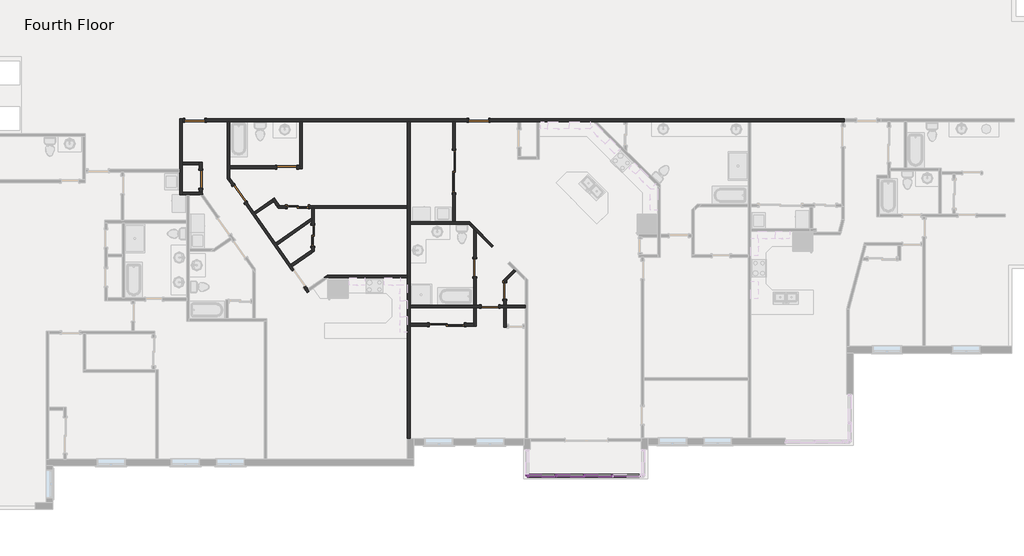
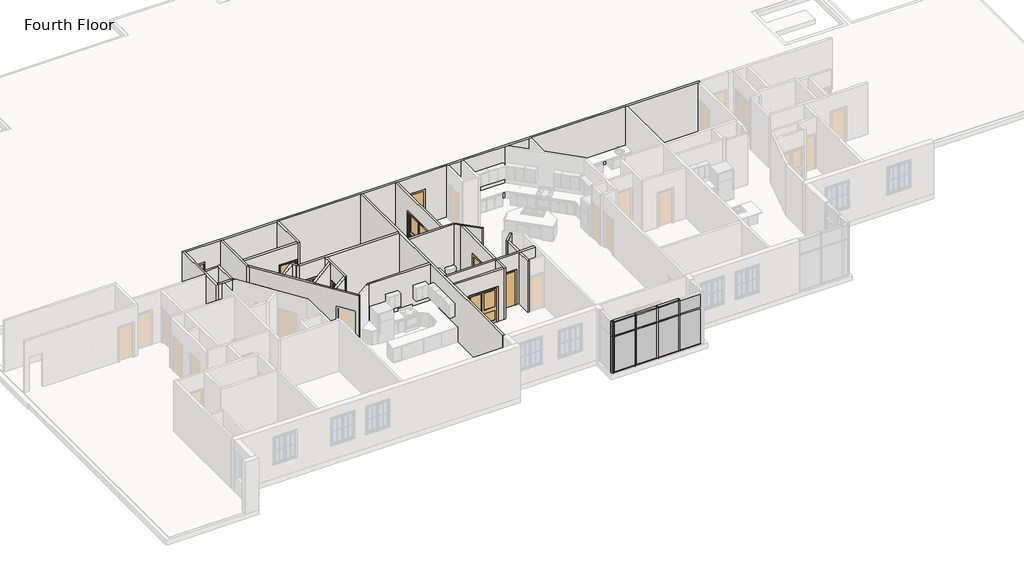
# One storey, part 3 of 17: 27 walls, 20 members, 12 doors, 8 plates.
"""IFC4 building model written with IfcOpenShell, lengths in millimetres."""

from ifc_helpers import new_model, si_unit, frame, origin, place, context, project, spatial, polyline, outline, extrude, faceted_brep, transform, mapped, element, save
from components import door_f2586ccf, door_d8f5dbb5, door_f2b275c1, door_825b8444, door_c29894e6, door_88c23cd7, door_2e7ec8be, door_caaf2a11, rectangular_mullion_rectangular_mullion_1_fa3625a1, rectangular_mullion_rectangular_mullion_1_7cbf0b94, rectangular_mullion_rectangular_mullion_1_6186cc23, rectangular_mullion_rectangular_mullion_1_049a2e78, rectangular_mullion_rectangular_mullion_1_a50b3cda, rectangular_mullion_rectangular_mullion_1_5cd4c5ac, system_panel_glazed_0ed27d1d, system_panel_glazed_134bacdb

model = new_model("IFC4")

# Units and contexts
model_context = context("Model", 3, world=origin())
ifc_project = project(units=[si_unit("LENGTHUNIT", "METRE", prefix="MILLI")], contexts=[model_context])

# Site, building, storey
site = spatial("IfcSite", under=ifc_project)
building = spatial("IfcBuilding", under=site)
storey = spatial("IfcBuildingStorey", under=building, Name="Fourth Floor", Elevation=9144.0)

# Doors
placement = place(None, origin())
door_shape = door_f2586ccf(model_context)
element("IfcDoor", 1, ObjectType="Single-Flush : 28\" x 80\"", at=placement, inside=storey, context=model_context, shape_type="MappedRepresentation", body=[
    mapped(door_shape, transform((31589.3040357, -12033.9392565, 9144.0), x_axis=(0.0, 1.0, 0.0), y_axis=(-1.0, 0.0, 0.0), z_axis=(0.0, 0.0, 1.0))),
])
door_2_shape = door_d8f5dbb5(model_context)
element("IfcDoor", 2, ObjectType="Single-Flush : 30\" x 80\"", at=placement, inside=storey, context=model_context, shape_type="MappedRepresentation", body=[
    mapped(door_2_shape, transform((18439.6602461, -7206.7219726, 9144.0), x_axis=(0.0, -1.0, 0.0), y_axis=(1.0, 0.0, 0.0), z_axis=(0.0, 0.0, 1.0))),
])
door_3_shape = door_f2b275c1(model_context)
element("IfcDoor", 3, ObjectType="Single-Flush : 30\" x 80\"", at=placement, inside=storey, context=model_context, shape_type="MappedRepresentation", body=[
    mapped(door_3_shape, transform((30941.6040357, -12707.1736347, 9144.0), x_axis=(1.0, 0.0, 0.0), y_axis=(0.0, 1.0, 0.0), z_axis=(0.0, 0.0, 1.0))),
])
element("IfcDoor", 4, ObjectType="Single-Flush : 30\" x 80\"", at=placement, inside=storey, context=model_context, shape_type="MappedRepresentation", body=[
    mapped(door_3_shape, transform((30293.9040357, -11030.7736347, 9144.0), x_axis=(0.0, -1.0, 0.0), y_axis=(1.0, 0.0, 0.0), z_axis=(0.0, 0.0, 1.0))),
])
door_4_shape = door_825b8444(model_context)
element("IfcDoor", 5, ObjectType="Single-Flush : 34\" x 80\"", at=placement, inside=storey, context=model_context, shape_type="MappedRepresentation", body=[
    mapped(door_4_shape, transform((20114.7748093, -7834.753233, 9144.0), x_axis=(-0.5735764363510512, 0.8191520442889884, 0.0), y_axis=(-0.8191520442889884, -0.5735764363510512, 0.0), z_axis=(0.0, 0.0, 1.0))),
])
door_5_shape = door_c29894e6(model_context)
element("IfcDoor", 6, ObjectType="Single-Flush : 34\" x 80\"", at=placement, inside=storey, context=model_context, shape_type="MappedRepresentation", body=[
    mapped(door_5_shape, transform((18188.1416991, -4651.3917963, 9144.0), x_axis=(-1.0, 0.0, 0.0), y_axis=(0.0, -1.0, 0.0), z_axis=(0.0, 0.0, 1.0))),
])
element("IfcDoor", 7, ObjectType="Single-Flush : 34\" x 80\"", at=placement, inside=storey, context=model_context, shape_type="MappedRepresentation", body=[
    mapped(door_5_shape, transform((22162.0691338, -6683.3917963, 9144.0), x_axis=(1.0, 0.0, 0.0), y_axis=(0.0, 1.0, 0.0), z_axis=(0.0, 0.0, 1.0))),
])
element("IfcDoor", 8, ObjectType="Single-Flush : 34\" x 80\"", at=placement, inside=storey, context=model_context, shape_type="MappedRepresentation", body=[
    mapped(door_5_shape, transform((30456.3297218, -4651.3917963, 9144.0), x_axis=(-1.0, 0.0, 0.0), y_axis=(0.0, -1.0, 0.0), z_axis=(0.0, 0.0, 1.0))),
])
door_6_shape = door_88c23cd7(model_context)
element("IfcDoor", 9, ObjectType="Sliding-Closet : 36\" x 80\"", at=placement, inside=storey, context=model_context, shape_type="MappedRepresentation", body=[
    mapped(door_6_shape, transform((23160.2196169, -9642.0427038, 9144.0), x_axis=(0.0, -1.0, 0.0), y_axis=(1.0, 0.0, 0.0), z_axis=(0.0, 0.0, 1.0))),
])
element("IfcDoor", 10, ObjectType="Sliding-Closet : 36\" x 80\"", at=placement, inside=storey, context=model_context, shape_type="MappedRepresentation", body=[
    mapped(door_6_shape, transform((22626.8196169, -8270.4427038, 9144.0), x_axis=(-1.0, 0.0, 0.0), y_axis=(0.0, -1.0, 0.0), z_axis=(0.0, 0.0, 1.0))),
])
door_7_shape = door_2e7ec8be(model_context)
element("IfcDoor", 11, ObjectType="Sliding-Closet : 60\" x 80\"", at=placement, inside=storey, context=model_context, shape_type="MappedRepresentation", body=[
    mapped(door_7_shape, transform((29074.7040357, -13371.9064679, 9144.0), x_axis=(-1.0, 0.0, 0.0), y_axis=(0.0, -1.0, 0.0), z_axis=(0.0, 0.0, 1.0))),
])
door_8_shape = door_caaf2a11(model_context)
element("IfcDoor", 12, ObjectType="Sliding-Closet : 72\" x 80\"", at=placement, inside=storey, context=model_context, shape_type="MappedRepresentation", body=[
    mapped(door_8_shape, transform((29262.5297218, -6874.7901817, 9144.0), x_axis=(0.0, -1.0, 0.0), y_axis=(1.0, 0.0, 0.0), z_axis=(0.0, 0.0, 1.0))),
])

# Members
rectangular_mullion_rectangular_mullion_1_shape = rectangular_mullion_rectangular_mullion_1_fa3625a1(model_context)
element("IfcMember", 13, ObjectType="Rectangular Mullion : Rectangular Mullion 1", at=placement, inside=storey, context=model_context, shape_type="MappedRepresentation", body=[
    mapped(rectangular_mullion_rectangular_mullion_1_shape, transform((33772.8620392, -20021.7015972, 12192.0), x_axis=(0.0, 0.0, 1.0), y_axis=(0.0, -1.0, 0.0), z_axis=(1.0, 0.0, 0.0))),
])
element("IfcMember", 14, ObjectType="Rectangular Mullion : Rectangular Mullion 1", at=placement, inside=storey, context=model_context, shape_type="MappedRepresentation", body=[
    mapped(rectangular_mullion_rectangular_mullion_1_shape, transform((34992.0620392, -20021.7015972, 12192.0), x_axis=(0.0, 0.0, 1.0), y_axis=(0.0, -1.0, 0.0), z_axis=(1.0, 0.0, 0.0))),
])
element("IfcMember", 15, ObjectType="Rectangular Mullion : Rectangular Mullion 1", at=placement, inside=storey, context=model_context, shape_type="MappedRepresentation", body=[
    mapped(rectangular_mullion_rectangular_mullion_1_shape, transform((36211.2620392, -20021.7015972, 12192.0), x_axis=(0.0, 0.0, 1.0), y_axis=(0.0, -1.0, 0.0), z_axis=(1.0, 0.0, 0.0))),
])
element("IfcMember", 16, ObjectType="Rectangular Mullion : Rectangular Mullion 1", at=placement, inside=storey, context=model_context, shape_type="MappedRepresentation", body=[
    mapped(rectangular_mullion_rectangular_mullion_1_shape, transform((32617.1620389, -20021.7015972, 9144.0), x_axis=(0.0, 0.0, -1.0), y_axis=(0.0, -1.0, 0.0), z_axis=(-1.0, 0.0, 0.0))),
])
element("IfcMember", 17, ObjectType="Rectangular Mullion : Rectangular Mullion 1", at=placement, inside=storey, context=model_context, shape_type="MappedRepresentation", body=[
    mapped(rectangular_mullion_rectangular_mullion_1_shape, transform((33836.3620392, -20021.7015972, 9144.0), x_axis=(0.0, 0.0, -1.0), y_axis=(0.0, -1.0, 0.0), z_axis=(-1.0, 0.0, 0.0))),
])
element("IfcMember", 18, ObjectType="Rectangular Mullion : Rectangular Mullion 1", at=placement, inside=storey, context=model_context, shape_type="MappedRepresentation", body=[
    mapped(rectangular_mullion_rectangular_mullion_1_shape, transform((35055.5620392, -20021.7015972, 9144.0), x_axis=(0.0, 0.0, -1.0), y_axis=(0.0, -1.0, 0.0), z_axis=(-1.0, 0.0, 0.0))),
])
element("IfcMember", 19, ObjectType="Rectangular Mullion : Rectangular Mullion 1", at=placement, inside=storey, context=model_context, shape_type="MappedRepresentation", body=[
    mapped(rectangular_mullion_rectangular_mullion_1_shape, transform((36274.7620392, -20021.7015972, 9144.0), x_axis=(0.0, 0.0, -1.0), y_axis=(0.0, -1.0, 0.0), z_axis=(-1.0, 0.0, 0.0))),
])
rectangular_mullion_rectangular_mullion_1_2_shape = rectangular_mullion_rectangular_mullion_1_7cbf0b94(model_context)
element("IfcMember", 20, ObjectType="Rectangular Mullion : Rectangular Mullion 1", at=placement, inside=storey, context=model_context, shape_type="MappedRepresentation", body=[
    mapped(rectangular_mullion_rectangular_mullion_1_2_shape, transform((33772.8620392, -20021.7015972, 11309.35), x_axis=(0.0, 0.0, 1.0), y_axis=(0.0, -1.0, 0.0), z_axis=(1.0, 0.0, 0.0))),
])
element("IfcMember", 21, ObjectType="Rectangular Mullion : Rectangular Mullion 1", at=placement, inside=storey, context=model_context, shape_type="MappedRepresentation", body=[
    mapped(rectangular_mullion_rectangular_mullion_1_2_shape, transform((34992.0620392, -20021.7015972, 11309.35), x_axis=(0.0, 0.0, 1.0), y_axis=(0.0, -1.0, 0.0), z_axis=(1.0, 0.0, 0.0))),
])
element("IfcMember", 22, ObjectType="Rectangular Mullion : Rectangular Mullion 1", at=placement, inside=storey, context=model_context, shape_type="MappedRepresentation", body=[
    mapped(rectangular_mullion_rectangular_mullion_1_2_shape, transform((36211.2620392, -20021.7015972, 11309.35), x_axis=(0.0, 0.0, 1.0), y_axis=(0.0, -1.0, 0.0), z_axis=(1.0, 0.0, 0.0))),
])
rectangular_mullion_rectangular_mullion_1_3_shape = rectangular_mullion_rectangular_mullion_1_6186cc23(model_context)
element("IfcMember", 23, ObjectType="Rectangular Mullion : Rectangular Mullion 1", at=placement, inside=storey, context=model_context, shape_type="MappedRepresentation", body=[
    mapped(rectangular_mullion_rectangular_mullion_1_3_shape, transform((33804.6120392, -20021.7015972, 9144.0), x_axis=(1.0, 0.0, 0.0), y_axis=(0.0, -1.0, 0.0), z_axis=(0.0, 0.0, -1.0))),
])
element("IfcMember", 24, ObjectType="Rectangular Mullion : Rectangular Mullion 1", at=placement, inside=storey, context=model_context, shape_type="MappedRepresentation", body=[
    mapped(rectangular_mullion_rectangular_mullion_1_3_shape, transform((35023.8120392, -20021.7015972, 9144.0), x_axis=(1.0, 0.0, 0.0), y_axis=(0.0, -1.0, 0.0), z_axis=(0.0, 0.0, -1.0))),
])
element("IfcMember", 25, ObjectType="Rectangular Mullion : Rectangular Mullion 1", at=placement, inside=storey, context=model_context, shape_type="MappedRepresentation", body=[
    mapped(rectangular_mullion_rectangular_mullion_1_3_shape, transform((36243.0120392, -20021.7015972, 9144.0), x_axis=(1.0, 0.0, 0.0), y_axis=(0.0, -1.0, 0.0), z_axis=(0.0, 0.0, -1.0))),
])
rectangular_mullion_rectangular_mullion_1_4_shape = rectangular_mullion_rectangular_mullion_1_049a2e78(model_context)
element("IfcMember", 26, ObjectType="Rectangular Mullion : Rectangular Mullion 1", at=placement, inside=storey, context=model_context, shape_type="MappedRepresentation", body=[
    mapped(rectangular_mullion_rectangular_mullion_1_4_shape, transform((33804.6120392, -20021.7015972, 11309.35), x_axis=(1.0, 0.0, 0.0), y_axis=(0.0, -1.0, 0.0), z_axis=(0.0, 0.0, -1.0))),
])
element("IfcMember", 27, ObjectType="Rectangular Mullion : Rectangular Mullion 1", at=placement, inside=storey, context=model_context, shape_type="MappedRepresentation", body=[
    mapped(rectangular_mullion_rectangular_mullion_1_4_shape, transform((35023.8120392, -20021.7015972, 11309.35), x_axis=(1.0, 0.0, 0.0), y_axis=(0.0, -1.0, 0.0), z_axis=(0.0, 0.0, -1.0))),
])
element("IfcMember", 28, ObjectType="Rectangular Mullion : Rectangular Mullion 1", at=placement, inside=storey, context=model_context, shape_type="MappedRepresentation", body=[
    mapped(rectangular_mullion_rectangular_mullion_1_4_shape, transform((36243.0120392, -20021.7015972, 11309.35), x_axis=(1.0, 0.0, 0.0), y_axis=(0.0, -1.0, 0.0), z_axis=(0.0, 0.0, -1.0))),
])
rectangular_mullion_rectangular_mullion_1_5_shape = rectangular_mullion_rectangular_mullion_1_a50b3cda(model_context)
element("IfcMember", 29, ObjectType="Rectangular Mullion : Rectangular Mullion 1", at=placement, inside=storey, context=model_context, shape_type="MappedRepresentation", body=[
    mapped(rectangular_mullion_rectangular_mullion_1_5_shape, transform((32553.6620389, -20021.7015972, 9144.0), x_axis=(0.0, -1.0, 0.0), y_axis=(-1.0, 0.0, 0.0), z_axis=(0.0, 0.0, -1.0))),
])
rectangular_mullion_rectangular_mullion_1_6_shape = rectangular_mullion_rectangular_mullion_1_5cd4c5ac(model_context)
element("IfcMember", 30, ObjectType="Rectangular Mullion : Rectangular Mullion 1", at=placement, inside=storey, context=model_context, shape_type="MappedRepresentation", body=[
    mapped(rectangular_mullion_rectangular_mullion_1_6_shape, transform((32553.6620389, -20021.7015972, 11309.35), x_axis=(0.0, -1.0, 0.0), y_axis=(-1.0, 0.0, 0.0), z_axis=(0.0, 0.0, -1.0))),
])
element("IfcMember", 31, ObjectType="Rectangular Mullion : Rectangular Mullion 1", at=placement, inside=storey, context=model_context, shape_type="MappedRepresentation", body=[
    mapped(rectangular_mullion_rectangular_mullion_1_6_shape, transform((32553.6620389, -20021.7015972, 12192.0), x_axis=(-1.0, 0.0, 0.0), y_axis=(0.0, -1.0, 0.0), z_axis=(0.0, 0.0, 1.0))),
])
element("IfcMember", 32, ObjectType="Rectangular Mullion : Rectangular Mullion 1", at=placement, inside=storey, context=model_context, shape_type="MappedRepresentation", body=[
    mapped(rectangular_mullion_rectangular_mullion_1_5_shape, transform((32553.6620389, -20021.7015972, 11309.35), x_axis=(-1.0, 0.0, 0.0), y_axis=(0.0, -1.0, 0.0), z_axis=(0.0, 0.0, 1.0))),
])

# Plates
system_panel_glazed_shape = system_panel_glazed_0ed27d1d(model_context)
element("IfcPlate", 33, ObjectType="System Panel : Glazed", at=placement, inside=storey, context=model_context, shape_type="MappedRepresentation", body=[
    mapped(system_panel_glazed_shape, transform((33195.012039, -20021.7015972, 9207.5), x_axis=(1.0, 0.0, 0.0), y_axis=(0.0, 1.0, 0.0), z_axis=(0.0, 0.0, 1.0))),
])
element("IfcPlate", 34, ObjectType="System Panel : Glazed", at=placement, inside=storey, context=model_context, shape_type="MappedRepresentation", body=[
    mapped(system_panel_glazed_shape, transform((34414.2120392, -20021.7015972, 9207.5), x_axis=(1.0, 0.0, 0.0), y_axis=(0.0, 1.0, 0.0), z_axis=(0.0, 0.0, 1.0))),
])
element("IfcPlate", 35, ObjectType="System Panel : Glazed", at=placement, inside=storey, context=model_context, shape_type="MappedRepresentation", body=[
    mapped(system_panel_glazed_shape, transform((35633.4120392, -20021.7015972, 9207.5), x_axis=(1.0, 0.0, 0.0), y_axis=(0.0, 1.0, 0.0), z_axis=(0.0, 0.0, 1.0))),
])
element("IfcPlate", 36, ObjectType="System Panel : Glazed", at=placement, inside=storey, context=model_context, shape_type="MappedRepresentation", body=[
    mapped(system_panel_glazed_shape, transform((36852.6120392, -20021.7015972, 9207.5), x_axis=(1.0, 0.0, 0.0), y_axis=(0.0, 1.0, 0.0), z_axis=(0.0, 0.0, 1.0))),
])
system_panel_glazed_2_shape = system_panel_glazed_134bacdb(model_context)
element("IfcPlate", 37, ObjectType="System Panel : Glazed", at=placement, inside=storey, context=model_context, shape_type="MappedRepresentation", body=[
    mapped(system_panel_glazed_2_shape, transform((33195.012039, -20021.7015972, 11341.1), x_axis=(1.0, 0.0, 0.0), y_axis=(0.0, 1.0, 0.0), z_axis=(0.0, 0.0, 1.0))),
])
element("IfcPlate", 38, ObjectType="System Panel : Glazed", at=placement, inside=storey, context=model_context, shape_type="MappedRepresentation", body=[
    mapped(system_panel_glazed_2_shape, transform((34414.2120392, -20021.7015972, 11341.1), x_axis=(1.0, 0.0, 0.0), y_axis=(0.0, 1.0, 0.0), z_axis=(0.0, 0.0, 1.0))),
])
element("IfcPlate", 39, ObjectType="System Panel : Glazed", at=placement, inside=storey, context=model_context, shape_type="MappedRepresentation", body=[
    mapped(system_panel_glazed_2_shape, transform((35633.4120392, -20021.7015972, 11341.1), x_axis=(1.0, 0.0, 0.0), y_axis=(0.0, 1.0, 0.0), z_axis=(0.0, 0.0, 1.0))),
])
element("IfcPlate", 40, ObjectType="System Panel : Glazed", at=placement, inside=storey, context=model_context, shape_type="MappedRepresentation", body=[
    mapped(system_panel_glazed_2_shape, transform((36852.6120392, -20021.7015972, 11341.1), x_axis=(1.0, 0.0, 0.0), y_axis=(0.0, 1.0, 0.0), z_axis=(0.0, 0.0, 1.0))),
])

# Walls
element("IfcWall", 41, ObjectType="Interior - 4 1/2\" Partition", at=placement, inside=storey, context=model_context, shape_type="Brep", body=[
    faceted_brep([(17521.3916991, -4594.2417963, 9144.0), (17521.3916991, -6779.3712391, 9144.0), (17521.3916991, -6893.6712391, 9144.0), (17521.3916991, -7873.4719726, 9144.0), (17521.3916991, -7873.4719726, 12192.0), (17521.3916991, -6893.6712391, 12192.0), (17521.3916991, -6779.3712391, 12192.0), (17521.3916991, -4594.2417963, 12192.0), (17635.6916991, -4594.2417963, 9144.0), (17635.6916991, -4594.2417963, 12192.0), (17635.6916991, -4708.5417963, 12192.0), (17635.6916991, -6473.8417963, 12192.0), (17635.6916991, -6588.1417963, 12192.0), (17635.6916991, -7759.1719726, 12192.0), (17635.6916991, -7873.4719726, 12192.0), (17635.6916991, -7873.4719726, 9144.0), (17635.6916991, -7759.1719726, 9144.0), (17635.6916991, -6588.1417963, 9144.0), (17635.6916991, -6473.8417963, 9144.0), (17635.6916991, -4708.5417963, 9144.0)], [[[0, 1, 2, 3, 4, 5, 6, 7]], [[8, 9, 10, 11, 12, 13, 14, 15, 16, 17, 18, 19]], [[3, 2, 1, 0, 8, 19, 18, 17, 16, 15]], [[7, 6, 5, 4, 14, 13, 12, 11, 10, 9]], [[0, 7, 9, 8]], [[4, 3, 15, 14]]]),
])
element("IfcWall", 42, ObjectType="Interior - 4 1/2\" Partition", at=placement, inside=storey, context=model_context, shape_type="Brep", body=[
    faceted_brep([(17635.6916991, -7873.4719726, 9144.0), (17837.7191338, -7873.4719726, 9144.0), (17952.0191338, -7873.4719726, 9144.0), (18417.502921, -7873.4719726, 9144.0), (18557.0374565, -7873.4719726, 9144.0), (18557.0374565, -7873.4719726, 12192.0), (18417.502921, -7873.4719726, 12192.0), (17952.0191338, -7873.4719726, 12192.0), (17837.7191338, -7873.4719726, 12192.0), (17635.6916991, -7873.4719726, 12192.0), (17635.6916991, -7759.1719726, 9144.0), (17635.6916991, -7759.1719726, 12192.0), (18382.5102461, -7759.1719726, 12192.0), (18477.0037349, -7759.1719726, 12192.0), (18477.0037349, -7759.1719726, 9144.0), (18382.5102461, -7759.1719726, 9144.0), (18496.8102461, -7787.4586021, 9144.0), (18496.8102461, -7787.4586021, 12192.0)], [[[0, 1, 2, 3, 4, 5, 6, 7, 8, 9]], [[10, 11, 12, 13, 14, 15]], [[4, 3, 2, 1, 0, 10, 15, 14, 16]], [[9, 8, 7, 6, 5, 17, 13, 12, 11]], [[5, 4, 16, 14, 13, 17]], [[0, 9, 11, 10]]]),
])
element("IfcWall", 43, ObjectType="Interior - 4 1/2\" Partition", at=placement, inside=storey, context=model_context, shape_type="Brep", body=[
    faceted_brep([(18619.9416991, -4708.5417963, 9144.0), (19583.8594272, -4708.5417963, 9144.0), (19698.1594272, -4708.5417963, 9144.0), (22714.5191338, -4708.5417963, 9144.0), (22828.8191338, -4708.5417963, 9144.0), (27373.7365862, -4708.5417963, 9144.0), (27488.0365862, -4708.5417963, 9144.0), (29332.3797218, -4708.5417963, 9144.0), (29446.6797218, -4708.5417963, 9144.0), (30024.5297218, -4708.5417963, 9144.0), (30024.5297218, -4708.5417963, 11176.0), (30888.1297218, -4708.5417963, 11176.0), (30888.1297218, -4708.5417963, 9144.0), (32155.9966966, -4708.5417963, 9144.0), (32270.2966966, -4708.5417963, 9144.0), (32968.7966966, -4708.5417963, 9144.0), (33083.0966966, -4708.5417963, 9144.0), (35406.7151666, -4708.5417963, 9144.0), (35568.3597768, -4708.5417963, 9144.0), (36748.8505062, -4708.5417963, 9144.0), (36863.1505062, -4708.5417963, 9144.0), (42109.9470292, -4708.5417963, 9144.0), (42224.2470292, -4708.5417963, 9144.0), (46162.3050668, -4708.5417963, 9144.0), (46276.6050668, -4708.5417963, 9144.0), (46276.6050668, -4708.5417963, 12192.0), (46162.3050668, -4708.5417963, 12192.0), (42224.2470292, -4708.5417963, 12192.0), (42109.9470292, -4708.5417963, 12192.0), (36863.1505062, -4708.5417963, 12192.0), (36748.8505062, -4708.5417963, 12192.0), (35568.3597768, -4708.5417963, 12192.0), (35406.7151666, -4708.5417963, 12192.0), (33083.0966966, -4708.5417963, 12192.0), (32968.7966966, -4708.5417963, 12192.0), (32270.2966966, -4708.5417963, 12192.0), (32155.9966966, -4708.5417963, 12192.0), (29446.6797218, -4708.5417963, 12192.0), (29332.3797218, -4708.5417963, 12192.0), (27488.0365862, -4708.5417963, 12192.0), (27373.7365862, -4708.5417963, 12192.0), (22828.8191338, -4708.5417963, 12192.0), (22714.5191338, -4708.5417963, 12192.0), (19698.1594272, -4708.5417963, 12192.0), (19583.8594272, -4708.5417963, 12192.0), (17635.6916991, -4708.5417963, 12192.0), (17635.6916991, -4708.5417963, 9144.0), (17756.3416991, -4708.5417963, 9144.0), (17756.3416991, -4708.5417963, 11176.0), (18619.9416991, -4708.5417963, 11176.0), (30024.5297218, -4594.2417963, 11176.0), (30024.5297218, -4594.2417963, 9144.0), (18619.9416991, -4594.2417963, 9144.0), (18619.9416991, -4594.2417963, 11176.0), (17756.3416991, -4594.2417963, 11176.0), (17756.3416991, -4594.2417963, 9144.0), (17635.6916991, -4594.2417963, 9144.0), (17635.6916991, -4594.2417963, 12192.0), (46276.6050668, -4594.2417963, 12192.0), (46276.6050668, -4594.2417963, 9144.0), (30888.1297218, -4594.2417963, 9144.0), (30888.1297218, -4594.2417963, 11176.0)], [[[0, 1, 2, 3, 4, 5, 6, 7, 8, 9, 10, 11, 12, 13, 14, 15, 16, 17, 18, 19, 20, 21, 22, 23, 24, 25, 26, 27, 28, 29, 30, 31, 32, 33, 34, 35, 36, 37, 38, 39, 40, 41, 42, 43, 44, 45, 46, 47, 48, 49]], [[50, 51, 52, 53, 54, 55, 56, 57, 58, 59, 60, 61]], [[56, 55, 47, 46]], [[60, 59, 24, 23, 22, 21, 20, 19, 18, 17, 16, 15, 14, 13, 12]], [[52, 51, 9, 8, 7, 6, 5, 4, 3, 2, 1, 0]], [[45, 44, 43, 42, 41, 40, 39, 38, 37, 36, 35, 34, 33, 32, 31, 30, 29, 28, 27, 26, 25, 58, 57]], [[48, 47, 55, 54]], [[49, 48, 54, 53]], [[0, 49, 53, 52]], [[10, 9, 51, 50]], [[11, 10, 50, 61]], [[12, 11, 61, 60]], [[25, 24, 59, 58]], [[46, 45, 57, 56]]]),
])
element("IfcWall", 44, ObjectType="Interior - 4 1/2\" Partition", at=placement, inside=storey, context=model_context, shape_type="Brep", body=[
    faceted_brep([(27373.7365862, -4708.5417963, 9144.0), (27373.7365862, -8340.2927038, 9144.0), (27373.7365862, -8454.5927038, 9144.0), (27373.7365862, -11354.6236347, 9144.0), (27373.7365862, -11468.9236347, 9144.0), (27373.7365862, -18426.2691587, 9144.0), (27373.7365862, -18426.2691587, 12192.0), (27373.7365862, -11468.9236347, 12192.0), (27373.7365862, -11354.6236347, 12192.0), (27373.7365862, -8454.5927038, 12192.0), (27373.7365862, -8340.2927038, 12192.0), (27373.7365862, -4708.5417963, 12192.0), (27488.0365862, -4708.5417963, 9144.0), (27488.0365862, -4708.5417963, 12192.0), (27488.0365862, -9041.0385671, 12192.0), (27488.0365862, -9155.3385671, 12192.0), (27488.0365862, -12650.0236347, 12192.0), (27488.0365862, -12764.3236347, 12192.0), (27488.0365862, -13441.7564679, 12192.0), (27488.0365862, -13556.0564679, 12192.0), (27488.0365862, -18426.2691587, 12192.0), (27488.0365862, -18426.2691587, 9144.0), (27488.0365862, -13556.0564679, 9144.0), (27488.0365862, -13441.7564679, 9144.0), (27488.0365862, -12764.3236347, 9144.0), (27488.0365862, -12650.0236347, 9144.0), (27488.0365862, -9155.3385671, 9144.0), (27488.0365862, -9041.0385671, 9144.0)], [[[0, 1, 2, 3, 4, 5, 6, 7, 8, 9, 10, 11]], [[12, 13, 14, 15, 16, 17, 18, 19, 20, 21, 22, 23, 24, 25, 26, 27]], [[5, 4, 3, 2, 1, 0, 12, 27, 26, 25, 24, 23, 22, 21]], [[11, 10, 9, 8, 7, 6, 20, 19, 18, 17, 16, 15, 14, 13]], [[0, 11, 13, 12]], [[6, 5, 21, 20]]]),
])
element("IfcWall", 45, ObjectType="Interior - 4 1/2\" Partition", at=placement, inside=storey, context=model_context, shape_type="Brep", body=[
    faceted_brep([(22714.5191338, -4708.5417963, 9144.0), (22714.5191338, -6626.2417963, 9144.0), (22714.5191338, -6740.5417963, 9144.0), (22714.5191338, -6740.5417963, 12192.0), (22714.5191338, -6626.2417963, 12192.0), (22714.5191338, -4708.5417963, 12192.0), (22828.8191338, -4708.5417963, 9144.0), (22828.8191338, -4708.5417963, 12192.0), (22828.8191338, -6740.5417963, 12192.0), (22828.8191338, -6740.5417963, 9144.0)], [[[0, 1, 2, 3, 4, 5]], [[6, 7, 8, 9]], [[2, 1, 0, 6, 9]], [[5, 4, 3, 8, 7]], [[3, 2, 9, 8]], [[0, 5, 7, 6]]]),
])
element("IfcWall", 46, ObjectType="Interior - 4 1/2\" Partition", at=placement, inside=storey, context=model_context, shape_type="SweptSolid", body=[
    extrude(outline(polyline([(11176.0, 22593.8691338), (9144.0, 22593.8691338), (9144.0, 22714.5191338), (12192.0, 22714.5191338), (12192.0, 19698.1594272), (9144.0, 19698.1594272), (9144.0, 21730.2691338), (11176.0, 21730.2691338), (11176.0, 22593.8691338)])), frame((0.0, -6740.5417963, 0.0), z_axis=(0.0, 1.0, 0.0), x_axis=(0.0, 0.0, 1.0)), (0.0, 0.0, 1.0), 114.3),
])
element("IfcWall", 47, ObjectType="Interior - 4 1/2\" Partition", at=placement, inside=storey, context=model_context, shape_type="Brep", body=[
    faceted_brep([(19698.1594272, -7339.4027898, 9144.0), (19698.1594272, -7140.1268211, 9144.0), (19698.1594272, -6740.5417963, 9144.0), (19698.1594272, -6626.2417963, 9144.0), (19698.1594272, -4708.5417963, 9144.0), (19698.1594272, -4708.5417963, 12192.0), (19698.1594272, -6626.2417963, 12192.0), (19698.1594272, -6740.5417963, 12192.0), (19698.1594272, -7140.1268211, 12192.0), (19698.1594272, -7339.4027898, 12192.0), (19583.8594272, -7176.1654727, 9144.0), (19583.8594272, -7176.1654727, 12192.0), (19583.8594272, -4708.5417963, 12192.0), (19583.8594272, -4708.5417963, 9144.0)], [[[0, 1, 2, 3, 4, 5, 6, 7, 8, 9]], [[10, 11, 12, 13]], [[4, 3, 2, 1, 0, 10, 13]], [[9, 8, 7, 6, 5, 12, 11]], [[0, 9, 11, 10]], [[5, 4, 13, 12]]]),
])
element("IfcWall", 48, ObjectType="Interior - 4 1/2\" Partition", at=placement, inside=storey, context=model_context, shape_type="Brep", body=[
    faceted_brep([(22169.6196169, -8340.2927038, 11176.0), (22169.6196169, -8340.2927038, 9144.0), (21847.2369931, -8340.2927038, 9144.0), (21707.7024576, -8340.2927038, 9144.0), (21707.7024576, -8340.2927038, 12192.0), (21847.2369931, -8340.2927038, 12192.0), (27373.7365862, -8340.2927038, 12192.0), (27373.7365862, -8340.2927038, 9144.0), (23084.0196169, -8340.2927038, 9144.0), (23084.0196169, -8340.2927038, 11176.0), (21787.7361792, -8454.5927038, 9144.0), (22169.6196169, -8454.5927038, 9144.0), (22169.6196169, -8454.5927038, 11176.0), (23084.0196169, -8454.5927038, 11176.0), (23084.0196169, -8454.5927038, 9144.0), (23230.0696169, -8454.5927038, 9144.0), (23344.3696169, -8454.5927038, 9144.0), (27373.7365862, -8454.5927038, 9144.0), (27373.7365862, -8454.5927038, 12192.0), (23344.3696169, -8454.5927038, 12192.0), (23230.0696169, -8454.5927038, 12192.0), (21787.7361792, -8454.5927038, 12192.0)], [[[0, 1, 2, 3, 4, 5, 6, 7, 8, 9]], [[10, 11, 12, 13, 14, 15, 16, 17, 18, 19, 20, 21]], [[8, 7, 17, 16, 15, 14]], [[3, 2, 1, 11, 10]], [[6, 5, 4, 21, 20, 19, 18]], [[14, 13, 9, 8]], [[12, 11, 1, 0]], [[13, 12, 0, 9]], [[4, 3, 10, 21]], [[7, 6, 18, 17]]]),
])
element("IfcWall", 49, ObjectType="Interior - 4 1/2\" Partition", at=placement, inside=storey, context=model_context, shape_type="Brep", body=[
    faceted_brep([(21847.2369931, -8340.2927038, 9144.0), (21618.8599772, -8014.1365238, 9144.0), (21618.8599772, -8014.1365238, 12192.0), (21847.2369931, -8340.2927038, 12192.0), (21707.7024576, -8340.2927038, 9144.0), (21707.7024576, -8340.2927038, 12192.0), (21590.7906853, -8173.3253892, 12192.0), (21525.2308986, -8079.6963105, 12192.0), (21525.2308986, -8079.6963105, 9144.0), (21590.7906853, -8173.3253892, 9144.0)], [[[0, 1, 2, 3]], [[4, 5, 6, 7, 8, 9]], [[1, 0, 4, 9, 8]], [[3, 2, 7, 6, 5]], [[2, 1, 8, 7]], [[0, 3, 5, 4]]]),
])
element("IfcWall", 50, ObjectType="Interior - 4 1/2\" Partition", at=placement, inside=storey, context=model_context, shape_type="SweptSolid", body=[
    extrude(outline(polyline([(20740.7007976, -8629.0302012), (21525.2308986, -8079.6963105), (21590.7906853, -8173.3253892), (20806.2605843, -8722.6592798), (20740.7007976, -8629.0302012)])), frame((0.0, 0.0, 9144.0), z_axis=(0.0, 0.0, 1.0), x_axis=(1.0, 0.0, 0.0)), (0.0, 0.0, 1.0), 3048.0),
])
element("IfcWall", 51, ObjectType="Interior - 4 1/2\" Partition", at=placement, inside=storey, context=model_context, shape_type="Brep", body=[
    faceted_brep([(22880.7389864, -11884.5974436, 11176.0), (22880.7389864, -11884.5974436, 9144.0), (23036.0836883, -12106.45267, 9144.0), (23036.0836883, -12106.45267, 12192.0), (19698.1594272, -7339.4027898, 12192.0), (19698.1594272, -7339.4027898, 9144.0), (19820.2899648, -7513.8232736, 9144.0), (19820.2899648, -7513.8232736, 11176.0), (20315.6305752, -8221.2429791, 11176.0), (20315.6305752, -8221.2429791, 9144.0), (22385.398376, -11177.1777382, 9144.0), (22385.398376, -11177.1777382, 11176.0), (23129.712767, -12040.8928833, 9144.0), (23064.1529803, -11947.2638046, 9144.0), (22974.3680651, -11819.0376569, 9144.0), (22974.3680651, -11819.0376569, 11176.0), (22479.0274547, -11111.6179515, 11176.0), (22479.0274547, -11111.6179515, 9144.0), (22389.2425394, -10983.3918038, 9144.0), (22323.6827528, -10889.7627251, 9144.0), (21738.045474, -10053.3860128, 9144.0), (21672.4856873, -9959.7569341, 9144.0), (20806.2605843, -8722.6592798, 9144.0), (20740.7007976, -8629.0302012, 9144.0), (20409.2596539, -8155.6831924, 9144.0), (20409.2596539, -8155.6831924, 11176.0), (19913.9190434, -7448.2634869, 11176.0), (19913.9190434, -7448.2634869, 9144.0), (19698.1594272, -7140.1268211, 9144.0), (19698.1594272, -7140.1268211, 12192.0), (20740.7007976, -8629.0302012, 12192.0), (20806.2605843, -8722.6592798, 12192.0), (21672.4856873, -9959.7569341, 12192.0), (21738.045474, -10053.3860128, 12192.0), (22323.6827528, -10889.7627251, 12192.0), (22389.2425394, -10983.3918038, 12192.0), (23064.1529803, -11947.2638046, 12192.0), (23129.712767, -12040.8928833, 12192.0)], [[[0, 1, 2, 3, 4, 5, 6, 7, 8, 9, 10, 11]], [[12, 13, 14, 15, 16, 17, 18, 19, 20, 21, 22, 23, 24, 25, 26, 27, 28, 29, 30, 31, 32, 33, 34, 35, 36, 37]], [[28, 27, 6, 5]], [[10, 9, 24, 23, 22, 21, 20, 19, 18, 17]], [[2, 1, 14, 13, 12]], [[4, 3, 37, 36, 35, 34, 33, 32, 31, 30, 29]], [[7, 6, 27, 26]], [[8, 7, 26, 25]], [[9, 8, 25, 24]], [[15, 14, 1, 0]], [[16, 15, 0, 11]], [[17, 16, 11, 10]], [[3, 2, 12, 37]], [[5, 4, 29, 28]]]),
])
element("IfcWall", 52, ObjectType="Interior - 4 1/2\" Partition", at=placement, inside=storey, context=model_context, shape_type="SweptSolid", body=[
    extrude(outline(polyline([(23230.0696169, -9008.6594608), (21738.045474, -10053.3860128), (21672.4856873, -9959.7569341), (23230.0696169, -8869.1249253), (23230.0696169, -9008.6594608)])), frame((0.0, 0.0, 9144.0), z_axis=(0.0, 0.0, 1.0), x_axis=(1.0, 0.0, 0.0)), (0.0, 0.0, 1.0), 3048.0),
])
element("IfcWall", 53, ObjectType="Interior - 4 1/2\" Partition", at=placement, inside=storey, context=model_context, shape_type="Brep", body=[
    faceted_brep([(23230.0696169, -10099.2427038, 11176.0), (23230.0696169, -10099.2427038, 9144.0), (23230.0696169, -10255.1038104, 9144.0), (23230.0696169, -10394.6383458, 9144.0), (23230.0696169, -10394.6383458, 12192.0), (23230.0696169, -10255.1038104, 12192.0), (23230.0696169, -9008.6594608, 12192.0), (23230.0696169, -8869.1249253, 12192.0), (23230.0696169, -8454.5927038, 12192.0), (23230.0696169, -8454.5927038, 9144.0), (23230.0696169, -8869.1249253, 9144.0), (23230.0696169, -9008.6594608, 9144.0), (23230.0696169, -9184.8427038, 9144.0), (23230.0696169, -9184.8427038, 11176.0), (23344.3696169, -10314.6046242, 9144.0), (23344.3696169, -10099.2427038, 9144.0), (23344.3696169, -10099.2427038, 11176.0), (23344.3696169, -9184.8427038, 11176.0), (23344.3696169, -9184.8427038, 9144.0), (23344.3696169, -8454.5927038, 9144.0), (23344.3696169, -8454.5927038, 12192.0), (23344.3696169, -10314.6046242, 12192.0)], [[[0, 1, 2, 3, 4, 5, 6, 7, 8, 9, 10, 11, 12, 13]], [[14, 15, 16, 17, 18, 19, 20, 21]], [[12, 11, 10, 9, 19, 18]], [[3, 2, 1, 15, 14]], [[8, 7, 6, 5, 4, 21, 20]], [[18, 17, 13, 12]], [[16, 15, 1, 0]], [[17, 16, 0, 13]], [[4, 3, 14, 21]], [[9, 8, 20, 19]]]),
])
element("IfcWall", 54, ObjectType="Interior - 4 1/2\" Partition", at=placement, inside=storey, context=model_context, shape_type="SweptSolid", body=[
    extrude(outline(polyline([(22323.6827528, -10889.7627251), (23230.0696169, -10255.1038104), (23230.0696169, -10394.6383458), (22389.2425394, -10983.3918038), (22323.6827528, -10889.7627251)])), frame((0.0, 0.0, 9144.0), z_axis=(0.0, 0.0, 1.0), x_axis=(1.0, 0.0, 0.0)), (0.0, 0.0, 1.0), 3048.0),
])
element("IfcWall", 55, ObjectType="Interior - 4 1/2\" Partition", at=placement, inside=storey, context=model_context, shape_type="SweptSolid", body=[
    extrude(outline(polyline([(18382.5102461, -6588.1417963), (17635.6916991, -6588.1417963), (17635.6916991, -6473.8417963), (18382.5102461, -6473.8417963), (18382.5102461, -6588.1417963)])), frame((0.0, 0.0, 9144.0), z_axis=(0.0, 0.0, 1.0), x_axis=(1.0, 0.0, 0.0)), (0.0, 0.0, 1.0), 3048.0),
])
element("IfcWall", 56, ObjectType="Interior - 4 1/2\" Partition", at=placement, inside=storey, context=model_context, shape_type="Brep", body=[
    faceted_brep([(18382.5102461, -7587.7219726, 11176.0), (18382.5102461, -7587.7219726, 9144.0), (18382.5102461, -7759.1719726, 9144.0), (18382.5102461, -7759.1719726, 12192.0), (18382.5102461, -6588.1417963, 12192.0), (18382.5102461, -6473.8417963, 12192.0), (18382.5102461, -6473.8417963, 9144.0), (18382.5102461, -6588.1417963, 9144.0), (18382.5102461, -6825.7219726, 9144.0), (18382.5102461, -6825.7219726, 11176.0), (18496.8102461, -7787.4586021, 9144.0), (18496.8102461, -7587.7219726, 9144.0), (18496.8102461, -7587.7219726, 11176.0), (18496.8102461, -6825.7219726, 11176.0), (18496.8102461, -6825.7219726, 9144.0), (18496.8102461, -6473.8417963, 9144.0), (18496.8102461, -6473.8417963, 12192.0), (18496.8102461, -7787.4586021, 12192.0), (18477.0037349, -7759.1719726, 9144.0), (18477.0037349, -7759.1719726, 12192.0)], [[[0, 1, 2, 3, 4, 5, 6, 7, 8, 9]], [[10, 11, 12, 13, 14, 15, 16, 17]], [[2, 1, 11, 10, 18]], [[8, 7, 6, 15, 14]], [[5, 4, 3, 19, 17, 16]], [[12, 11, 1, 0]], [[13, 12, 0, 9]], [[14, 13, 9, 8]], [[6, 5, 16, 15]], [[3, 2, 18, 19]], [[18, 10, 17, 19]]]),
])
element("IfcWall", 57, ObjectType="Interior - 4 1/2\" Partition", at=placement, inside=storey, context=model_context, shape_type="Brep", body=[
    faceted_brep([(27373.7365862, -11354.6236347, 9144.0), (23910.5308577, -11354.6236347, 9144.0), (23910.5308577, -11354.6236347, 12192.0), (27373.7365862, -11354.6236347, 12192.0), (27373.7365862, -11468.9236347, 9144.0), (27373.7365862, -11468.9236347, 12192.0), (23946.5695093, -11468.9236347, 12192.0), (23747.2935405, -11468.9236347, 12192.0), (23747.2935405, -11468.9236347, 9144.0), (23946.5695093, -11468.9236347, 9144.0)], [[[0, 1, 2, 3]], [[4, 5, 6, 7, 8, 9]], [[1, 0, 4, 9, 8]], [[3, 2, 7, 6, 5]], [[2, 1, 8, 7]], [[0, 3, 5, 4]]]),
])
element("IfcWall", 58, ObjectType="Interior - 4 1/2\" Partition", at=placement, inside=storey, context=model_context, shape_type="SweptSolid", body=[
    extrude(outline(polyline([(-7789.1901817, 11176.0), (-7789.1901817, 9144.0), (-9041.0385671, 9144.0), (-9041.0385671, 12192.0), (-4708.5417963, 12192.0), (-4708.5417963, 9144.0), (-5960.3901817, 9144.0), (-5960.3901817, 11176.0), (-7789.1901817, 11176.0)])), frame((29332.3797218, 0.0, 0.0), z_axis=(1.0, 0.0, 0.0), x_axis=(0.0, 1.0, 0.0)), (0.0, 0.0, 1.0), 114.3),
])
element("IfcWall", 59, ObjectType="Interior - 4 1/2\" Partition", at=placement, inside=storey, context=model_context, shape_type="Brep", body=[
    faceted_brep([(30068.0180742, -9041.0385671, 9144.0), (29446.6797218, -9041.0385671, 9144.0), (29332.3797218, -9041.0385671, 9144.0), (27488.0365862, -9041.0385671, 9144.0), (27488.0365862, -9041.0385671, 12192.0), (29332.3797218, -9041.0385671, 12192.0), (29446.6797218, -9041.0385671, 12192.0), (30068.0180742, -9041.0385671, 12192.0), (30182.3180742, -9155.3385671, 9144.0), (30182.3180742, -9155.3385671, 12192.0), (30020.673464, -9155.3385671, 12192.0), (27488.0365862, -9155.3385671, 12192.0), (27488.0365862, -9155.3385671, 9144.0), (30020.673464, -9155.3385671, 9144.0)], [[[0, 1, 2, 3, 4, 5, 6, 7]], [[8, 9, 10, 11, 12, 13]], [[3, 2, 1, 0, 8, 13, 12]], [[7, 6, 5, 4, 11, 10, 9]], [[0, 7, 9, 8]], [[4, 3, 12, 11]]]),
])
element("IfcWall", 60, ObjectType="Interior - 4 1/2\" Partition", at=placement, inside=storey, context=model_context, shape_type="Brep", body=[
    faceted_brep([(31975.277942, -11109.9430451, 9144.0), (31532.1540357, -11553.0669515, 9144.0), (31532.1540357, -11553.0669515, 12192.0), (31975.277942, -11109.9430451, 12192.0), (32056.1002471, -11190.7653502, 12192.0), (31646.4540357, -11600.4115616, 12192.0), (31532.1540357, -11714.7115616, 12192.0), (31532.1540357, -11714.7115616, 11176.0), (31568.5263407, -11678.3392565, 11176.0), (31568.5263407, -11678.3392565, 9144.0), (31646.4540357, -11600.4115616, 9144.0), (32056.1002471, -11190.7653502, 9144.0), (31532.1540357, -11678.3392565, 9144.0), (31532.1540357, -11678.3392565, 11176.0)], [[[0, 1, 2, 3]], [[4, 5, 6, 7, 8, 9, 10, 11]], [[1, 0, 11, 10, 9, 12]], [[3, 2, 6, 5, 4]], [[8, 13, 12, 9]], [[13, 8, 7]], [[2, 1, 12, 13, 7, 6]], [[0, 3, 4, 11]]]),
])
element("IfcWall", 61, ObjectType="Interior - 4 1/2\" Partition", at=placement, inside=storey, context=model_context, shape_type="Brep", body=[
    faceted_brep([(31532.1540357, -12650.0236347, 12192.0), (31532.1540357, -11714.7115616, 12192.0), (31532.1540357, -11714.7115616, 11176.0), (31532.1540357, -12389.5392565, 11176.0), (31532.1540357, -12389.5392565, 9144.0), (31532.1540357, -12650.0236347, 9144.0), (31646.4540357, -11600.4115616, 12192.0), (31646.4540357, -12650.0236347, 12192.0), (31646.4540357, -12650.0236347, 9144.0), (31646.4540357, -12389.5392565, 9144.0), (31646.4540357, -12389.5392565, 11176.0), (31646.4540357, -11678.3392565, 11176.0), (31646.4540357, -11678.3392565, 9144.0), (31646.4540357, -11600.4115616, 9144.0), (31568.5263407, -11678.3392565, 9144.0), (31568.5263407, -11678.3392565, 11176.0)], [[[0, 1, 2, 3, 4, 5]], [[6, 7, 8, 9, 10, 11, 12, 13]], [[13, 12, 14]], [[8, 5, 4, 9]], [[1, 0, 7, 6]], [[11, 15, 14, 12]], [[15, 11, 10, 3, 2]], [[3, 10, 9, 4]], [[0, 5, 8, 7]], [[1, 6, 13, 14, 15, 2]]]),
])
element("IfcWall", 62, ObjectType="Interior - 4 1/2\" Partition", at=placement, inside=storey, context=model_context, shape_type="Brep", body=[
    faceted_brep([(32465.5565643, -12650.0236347, 9144.0), (31646.4540357, -12650.0236347, 9144.0), (31532.1540357, -12650.0236347, 9144.0), (31322.6040357, -12650.0236347, 9144.0), (31322.6040357, -12650.0236347, 11176.0), (30560.6040357, -12650.0236347, 11176.0), (30560.6040357, -12650.0236347, 9144.0), (30351.0540357, -12650.0236347, 9144.0), (30236.7540357, -12650.0236347, 9144.0), (27488.0365862, -12650.0236347, 9144.0), (27488.0365862, -12650.0236347, 12192.0), (30236.7540357, -12650.0236347, 12192.0), (30351.0540357, -12650.0236347, 12192.0), (31532.1540357, -12650.0236347, 12192.0), (31646.4540357, -12650.0236347, 12192.0), (32465.5565643, -12650.0236347, 12192.0), (31322.6040357, -12764.3236347, 11176.0), (31322.6040357, -12764.3236347, 9144.0), (31532.1540357, -12764.3236347, 9144.0), (31646.4540357, -12764.3236347, 9144.0), (32465.5565643, -12764.3236347, 9144.0), (32465.5565643, -12764.3236347, 12192.0), (31646.4540357, -12764.3236347, 12192.0), (31532.1540357, -12764.3236347, 12192.0), (30351.0540357, -12764.3236347, 12192.0), (30236.7540357, -12764.3236347, 12192.0), (27488.0365862, -12764.3236347, 12192.0), (27488.0365862, -12764.3236347, 9144.0), (30236.7540357, -12764.3236347, 9144.0), (30351.0540357, -12764.3236347, 9144.0), (30560.6040357, -12764.3236347, 9144.0), (30560.6040357, -12764.3236347, 11176.0)], [[[0, 1, 2, 3, 4, 5, 6, 7, 8, 9, 10, 11, 12, 13, 14, 15]], [[16, 17, 18, 19, 20, 21, 22, 23, 24, 25, 26, 27, 28, 29, 30, 31]], [[20, 19, 18, 17, 3, 2, 1, 0]], [[30, 29, 28, 27, 9, 8, 7, 6]], [[15, 14, 13, 12, 11, 10, 26, 25, 24, 23, 22, 21]], [[4, 3, 17, 16]], [[5, 4, 16, 31]], [[6, 5, 31, 30]], [[0, 15, 21, 20]], [[10, 9, 27, 26]]]),
])
element("IfcWall", 63, ObjectType="Interior - 4 1/2\" Partition", at=placement, inside=storey, context=model_context, shape_type="Brep", body=[
    faceted_brep([(31532.1540357, -12764.3236347, 9144.0), (31532.1540357, -13613.2064679, 9144.0), (31532.1540357, -13613.2064679, 12192.0), (31532.1540357, -12764.3236347, 12192.0), (31646.4540357, -12764.3236347, 9144.0), (31646.4540357, -12764.3236347, 12192.0), (31646.4540357, -13498.9064679, 12192.0), (31646.4540357, -13613.2064679, 12192.0), (31646.4540357, -13613.2064679, 9144.0), (31646.4540357, -13498.9064679, 9144.0)], [[[0, 1, 2, 3]], [[4, 5, 6, 7, 8, 9]], [[1, 0, 4, 9, 8]], [[3, 2, 7, 6, 5]], [[2, 1, 8, 7]], [[0, 3, 5, 4]]]),
])
element("IfcWall", 64, ObjectType="Interior - 4 1/2\" Partition", at=placement, inside=storey, context=model_context, shape_type="Brep", body=[
    faceted_brep([(30236.7540357, -12764.3236347, 9144.0), (30236.7540357, -13441.7564679, 9144.0), (30236.7540357, -13556.0564679, 9144.0), (30236.7540357, -13556.0564679, 12192.0), (30236.7540357, -13441.7564679, 12192.0), (30236.7540357, -12764.3236347, 12192.0), (30351.0540357, -12764.3236347, 9144.0), (30351.0540357, -12764.3236347, 12192.0), (30351.0540357, -13556.0564679, 12192.0), (30351.0540357, -13556.0564679, 9144.0)], [[[0, 1, 2, 3, 4, 5]], [[6, 7, 8, 9]], [[2, 1, 0, 6, 9]], [[5, 4, 3, 8, 7]], [[3, 2, 9, 8]], [[0, 5, 7, 6]]]),
])
element("IfcWall", 65, ObjectType="Interior - 4 1/2\" Partition", at=placement, inside=storey, context=model_context, shape_type="SweptSolid", body=[
    extrude(outline(polyline([(9144.0, 27488.0365862), (9144.0, 28312.7040357), (11176.0, 28312.7040357), (11176.0, 29836.7040357), (9144.0, 29836.7040357), (9144.0, 30236.7540357), (12192.0, 30236.7540357), (12192.0, 27488.0365862), (9144.0, 27488.0365862)])), frame((0.0, -13556.0564679, 0.0), z_axis=(0.0, 1.0, 0.0), x_axis=(0.0, 0.0, 1.0)), (0.0, 0.0, 1.0), 114.3),
])
element("IfcWall", 66, ObjectType="Interior - 4 1/2\" Partition", at=placement, inside=storey, context=model_context, shape_type="Brep", body=[
    faceted_brep([(30351.0540357, -12650.0236347, 9144.0), (30351.0540357, -11411.7736347, 9144.0), (30351.0540357, -11411.7736347, 11176.0), (30351.0540357, -10649.7736347, 11176.0), (30351.0540357, -10649.7736347, 9144.0), (30351.0540357, -9485.7191388, 9144.0), (30351.0540357, -9485.7191388, 12192.0), (30351.0540357, -12650.0236347, 12192.0), (30236.7540357, -11411.7736347, 11176.0), (30236.7540357, -11411.7736347, 9144.0), (30236.7540357, -12650.0236347, 9144.0), (30236.7540357, -12650.0236347, 12192.0), (30236.7540357, -9371.4191388, 12192.0), (30236.7540357, -9371.4191388, 9144.0), (30236.7540357, -10649.7736347, 9144.0), (30236.7540357, -10649.7736347, 11176.0)], [[[0, 1, 2, 3, 4, 5, 6, 7]], [[8, 9, 10, 11, 12, 13, 14, 15]], [[14, 13, 5, 4]], [[10, 9, 1, 0]], [[7, 6, 12, 11]], [[2, 1, 9, 8]], [[3, 2, 8, 15]], [[4, 3, 15, 14]], [[6, 5, 13, 12]], [[0, 7, 11, 10]]]),
])
element("IfcWall", 67, ObjectType="Interior - 4 1/2\" Partition", at=placement, inside=storey, context=model_context, shape_type="Brep", body=[
    faceted_brep([(31097.892306, -10070.9127989, 9144.0), (30182.3180742, -9155.3385671, 9144.0), (30182.3180742, -9155.3385671, 12192.0), (31097.892306, -10070.9127989, 12192.0), (31017.0700009, -10151.735104, 9144.0), (31017.0700009, -10151.735104, 12192.0), (30351.0540357, -9485.7191388, 12192.0), (30236.7540357, -9371.4191388, 12192.0), (30020.673464, -9155.3385671, 12192.0), (30020.673464, -9155.3385671, 9144.0), (30236.7540357, -9371.4191388, 9144.0), (30351.0540357, -9485.7191388, 9144.0)], [[[0, 1, 2, 3]], [[4, 5, 6, 7, 8, 9, 10, 11]], [[1, 0, 4, 11, 10, 9]], [[3, 2, 8, 7, 6, 5]], [[0, 3, 5, 4]], [[2, 1, 9, 8]]]),
])

save(model, "model.ifc")
